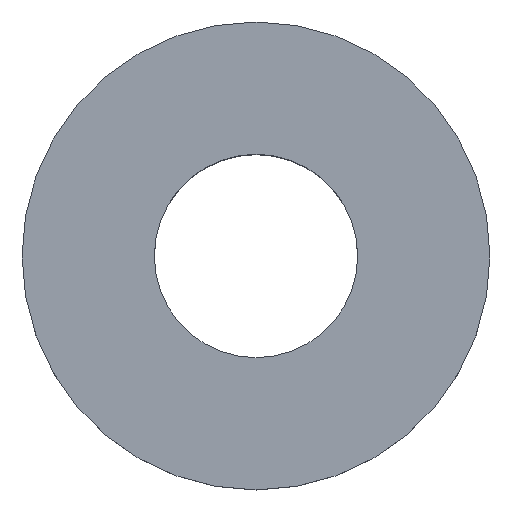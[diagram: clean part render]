
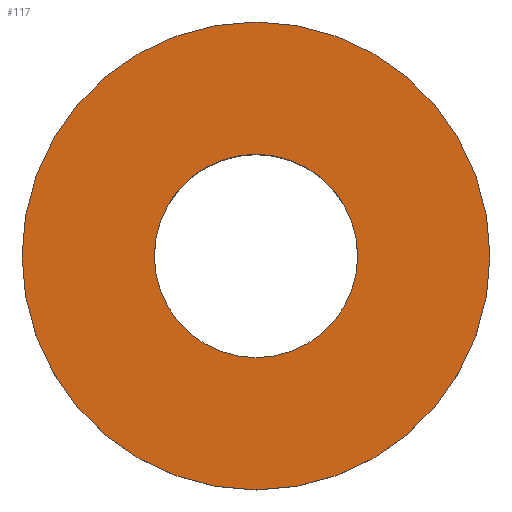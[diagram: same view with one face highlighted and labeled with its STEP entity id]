
A CAD part, top view. The second image highlights one B-rep face of the part: STEP entity #117.
In plain terms, the highlighted planar face has unit normal (0, 0, 1).
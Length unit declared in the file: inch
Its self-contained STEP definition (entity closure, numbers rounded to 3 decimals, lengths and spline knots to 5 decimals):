
#83=CARTESIAN_POINT('',(0.2875,0.,0.3165));
#84=VERTEX_POINT('',#83);
#85=CARTESIAN_POINT('',(0.0,0.0,0.3165));
#86=DIRECTION('',(0.0,0.0,-1.0));
#87=DIRECTION('',(-1.0,0.0,0.0));
#88=AXIS2_PLACEMENT_3D('',#85,#86,#87);
#89=CIRCLE('',#88,0.2875);
#90=EDGE_CURVE('',#84,#84,#89,.T.);
#98=CARTESIAN_POINT('',(0.0,0.0,0.3165));
#99=DIRECTION('',(0.0,0.0,-1.0));
#100=DIRECTION('',(-1.0,0.0,0.0));
#101=AXIS2_PLACEMENT_3D('',#98,#99,#100);
#102=PLANE('',#101);
#103=ORIENTED_EDGE('',*,*,#90,.F.);
#104=EDGE_LOOP('',(#103));
#105=FACE_OUTER_BOUND('',#104,.T.);
#106=CARTESIAN_POINT('',(0.125,0.,0.3165));
#107=VERTEX_POINT('',#106);
#108=CARTESIAN_POINT('',(0.0,0.0,0.3165));
#109=DIRECTION('',(0.0,0.0,-1.0));
#110=DIRECTION('',(-1.0,0.0,0.0));
#111=AXIS2_PLACEMENT_3D('',#108,#109,#110);
#112=CIRCLE('',#111,0.125);
#113=EDGE_CURVE('',#107,#107,#112,.T.);
#114=ORIENTED_EDGE('',*,*,#113,.T.);
#115=EDGE_LOOP('',(#114));
#116=FACE_BOUND('',#115,.T.);
#117=ADVANCED_FACE('',(#105,#116),#102,.F.);
